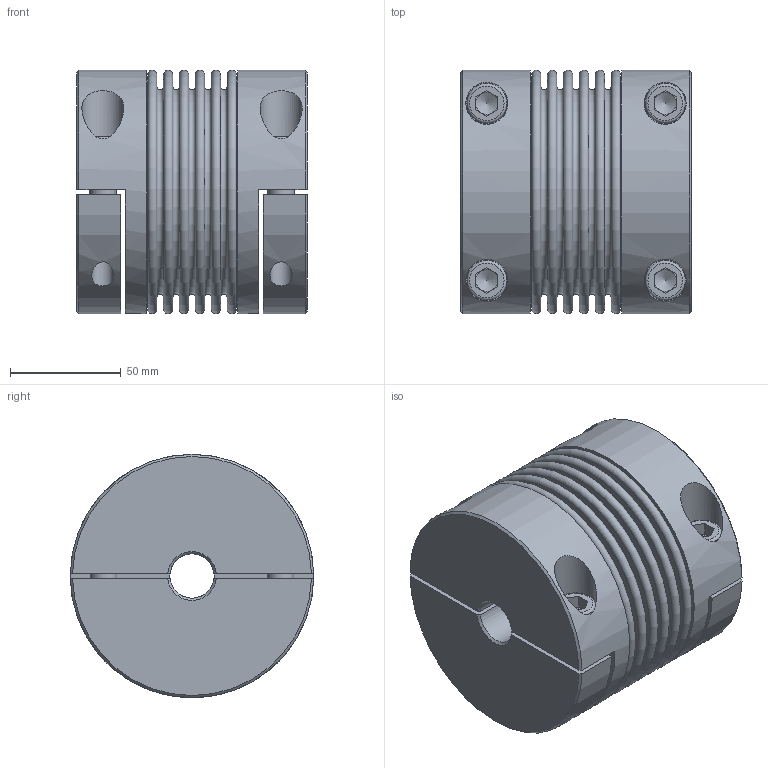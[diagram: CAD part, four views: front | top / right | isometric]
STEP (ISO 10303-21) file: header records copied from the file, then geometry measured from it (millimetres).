
FILE_DESCRIPTION( ( 'Unknown' ), '1' );
FILE_NAME( 'C:/Users/skarpstein/Desktop/KB4HC/KB4HC-300-105.stp', 'Unknown', ( 'Unknown' ), ( 'Unknown' ), 'PSStep 16.0.42', 'Unknown', ' ' );
FILE_SCHEMA( ( 'AUTOMOTIVE_DESIGN { 1 0 10303 214 1 1 1 1 }' ) );
Length unit declared in the file: millimetre
Products named in the file (7): Assem1; Socket Head Cap Screw_DIN_DIN 912 M12 x 40 --- 40N; KN4HC-300-D38; KN4HC-300-D50; BL300_Standard_0
Assembly tree (9 placements, depth 2):
  Assem1
    Socket Head Cap Screw_DIN_DIN 912 M12 x 40 --- 40N  x4
    KN4HC-300-D38
    KN4HC-300-D38
    KN4HC-300-D50
    KN4HC-300-D50
    BL300_Standard_0
Bounding box: 104.2 x 110 x 110 mm (x, y, z)
Volume: 561856.9 mm3; surface area: 194959 mm2
Topology: 9 solids, 9 shells, 186 faces, 382 edges, 244 vertices
Faces by surface type: plane 108, cylinder 32, torus 30, cone 16
Full cylindrical faces by diameter (mm): 10.106 x4, 12 x4, 12.5 x4, 18 x4, 19 x4, 20 x2, 99.8 x2, 101 x2, 110 x2
Entity records: 4832 total; most frequent: CARTESIAN_POINT 1246, DIRECTION 540, ORIENTED_EDGE 378, AXIS2_PLACEMENT_3D 242, EDGE_LOOP 220, EDGE_CURVE 189, FACE_OUTER_BOUND 169, VERTEX_POINT 166
